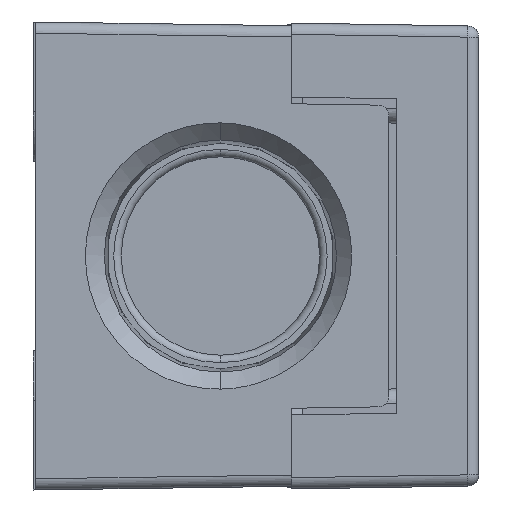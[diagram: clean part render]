
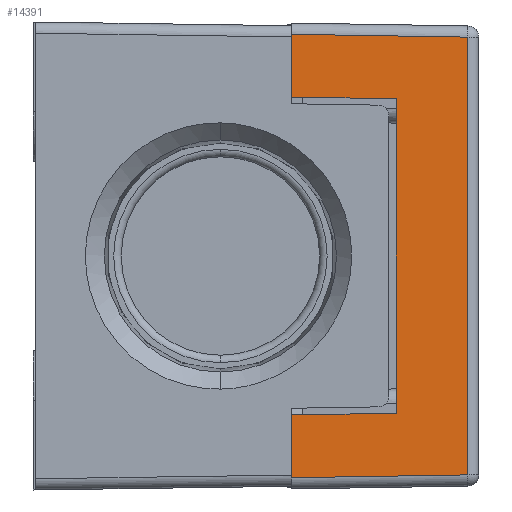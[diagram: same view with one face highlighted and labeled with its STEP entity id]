
A CAD part, front view. The second image highlights one B-rep face of the part: STEP entity #14391.
In plain terms, the highlighted planar face has unit normal (0.016, -1, 0).
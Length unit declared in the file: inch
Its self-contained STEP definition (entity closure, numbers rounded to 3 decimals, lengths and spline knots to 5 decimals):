
#595=DIRECTION('',(0.,0.,1.));
#596=VECTOR('',#595,0.2515);
#597=CARTESIAN_POINT('',(0.19,-3.68572,-0.88823));
#598=LINE('',#597,#596);
#1912=DIRECTION('',(1.,0.016,0.016));
#1913=VECTOR('',#1912,0.7059);
#1914=CARTESIAN_POINT('',(0.19,-3.68572,-0.88823));
#1915=LINE('',#1914,#1913);
#1935=DIRECTION('',(0.,0.,-1.));
#1936=VECTOR('',#1935,1.26);
#1937=CARTESIAN_POINT('',(0.61,-3.679,0.63));
#1938=LINE('',#1937,#1936);
#1948=DIRECTION('',(-1.,-0.016,0.016));
#1949=VECTOR('',#1948,0.7059);
#1950=CARTESIAN_POINT('',(0.89572,-3.67442,
0.87693));
#1951=LINE('',#1950,#1949);
#1971=DIRECTION('',(0.,0.,1.));
#1972=VECTOR('',#1971,1.75386);
#1973=CARTESIAN_POINT('',(0.89572,-3.67442,
-0.87693));
#1974=LINE('',#1973,#1972);
#2420=DIRECTION('',(0.,0.,1.));
#2421=VECTOR('',#2420,0.2515);
#2422=CARTESIAN_POINT('',(0.19,-3.68572,0.63672));
#2423=LINE('',#2422,#2421);
#2454=DIRECTION('',(1.,0.016,-0.016));
#2455=VECTOR('',#2454,0.42011);
#2456=CARTESIAN_POINT('',(0.19,-3.68572,0.63672));
#2457=LINE('',#2456,#2455);
#3846=DIRECTION('',(-1.,-0.016,-0.016));
#3847=VECTOR('',#3846,0.42011);
#3848=CARTESIAN_POINT('',(0.61,-3.679,-0.63));
#3849=LINE('',#3848,#3847);
#11281=CARTESIAN_POINT('',(0.61,-3.679,0.63));
#11282=CARTESIAN_POINT('',(0.61,-3.679,-0.63));
#11283=VERTEX_POINT('',#11281);
#11284=VERTEX_POINT('',#11282);
#11287=CARTESIAN_POINT('',(0.19,-3.68572,0.63672));
#11288=VERTEX_POINT('',#11287);
#11289=CARTESIAN_POINT('',(0.19,-3.68572,-0.63672));
#11290=VERTEX_POINT('',#11289);
#11348=CARTESIAN_POINT('',(0.89572,-3.67442,
0.87693));
#11349=CARTESIAN_POINT('',(0.19,-3.68572,0.88823));
#11350=VERTEX_POINT('',#11348);
#11351=VERTEX_POINT('',#11349);
#11352=CARTESIAN_POINT('',(0.89572,-3.67442,
-0.87693));
#11353=VERTEX_POINT('',#11352);
#11354=CARTESIAN_POINT('',(0.19,-3.68572,-0.88823));
#11355=VERTEX_POINT('',#11354);
#14370=CARTESIAN_POINT('',(0.235,-3.685,0.98678));
#14371=DIRECTION('',(0.016,-1.,0.));
#14372=DIRECTION('',(0.,0.,1.));
#14373=AXIS2_PLACEMENT_3D('',#14370,#14371,#14372);
#14374=PLANE('',#14373);
#14376=ORIENTED_EDGE('',*,*,#14375,.F.);
#14378=ORIENTED_EDGE('',*,*,#14377,.F.);
#14379=ORIENTED_EDGE('',*,*,#14362,.F.);
#14380=ORIENTED_EDGE('',*,*,#12940,.T.);
#14382=ORIENTED_EDGE('',*,*,#14381,.F.);
#14384=ORIENTED_EDGE('',*,*,#14383,.F.);
#14386=ORIENTED_EDGE('',*,*,#14385,.F.);
#14388=ORIENTED_EDGE('',*,*,#14387,.T.);
#14389=EDGE_LOOP('',(#14376,#14378,#14379,#14380,#14382,#14384,#14386,#14388));
#14390=FACE_OUTER_BOUND('',#14389,.F.);
#14391=ADVANCED_FACE('',(#14390),#14374,.T.);
#12940=EDGE_CURVE('',#11355,#11290,#598,.T.);
#14362=EDGE_CURVE('',#11355,#11353,#1915,.T.);
#14375=EDGE_CURVE('',#11350,#11351,#1951,.T.);
#14377=EDGE_CURVE('',#11353,#11350,#1974,.T.);
#14381=EDGE_CURVE('',#11284,#11290,#3849,.T.);
#14383=EDGE_CURVE('',#11283,#11284,#1938,.T.);
#14385=EDGE_CURVE('',#11288,#11283,#2457,.T.);
#14387=EDGE_CURVE('',#11288,#11351,#2423,.T.);
